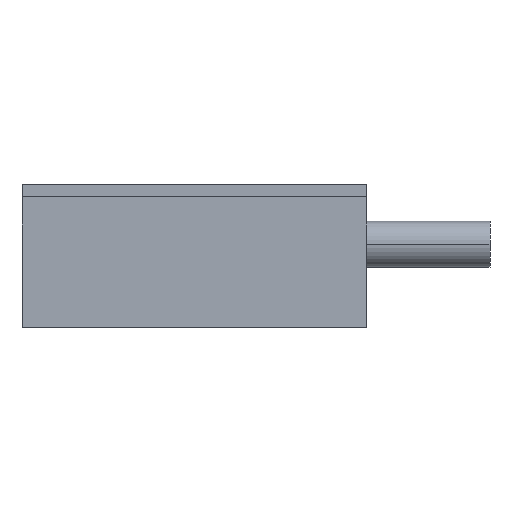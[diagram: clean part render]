
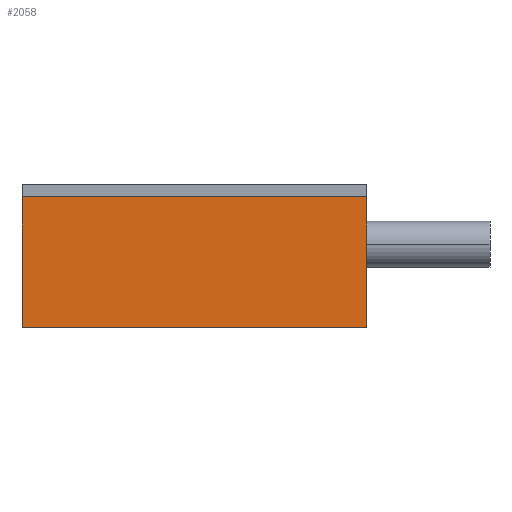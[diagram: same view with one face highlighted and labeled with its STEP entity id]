
A CAD part, front view. The second image highlights one B-rep face of the part: STEP entity #2058.
In plain terms, the highlighted planar face has unit normal (0, -1, 0).
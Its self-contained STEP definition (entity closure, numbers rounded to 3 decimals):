
#18 = CARTESIAN_POINT ( 'NONE',  ( -28., -62.5, 0. ) ) ;
#29 = CARTESIAN_POINT ( 'NONE',  ( 28., -62.5, 21.2 ) ) ;
#102 = EDGE_LOOP ( 'NONE', ( #1921, #378, #565, #911 ) ) ;
#213 = DIRECTION ( 'NONE',  ( 0., 0., -1. ) ) ;
#262 = DIRECTION ( 'NONE',  ( 1., 0., 0. ) ) ;
#281 = EDGE_CURVE ( 'NONE', #1362, #864, #422, .T. ) ;
#373 = DIRECTION ( 'NONE',  ( 1., 0., 0. ) ) ;
#378 = ORIENTED_EDGE ( 'NONE', *, *, #1558, .F. ) ;
#416 = VERTEX_POINT ( 'NONE', #1700 ) ;
#422 = LINE ( 'NONE', #1790, #1690 ) ;
#551 = LINE ( 'NONE', #18, #1649 ) ;
#565 = ORIENTED_EDGE ( 'NONE', *, *, #281, .F. ) ;
#864 = VERTEX_POINT ( 'NONE', #971 ) ;
#911 = ORIENTED_EDGE ( 'NONE', *, *, #1272, .T. ) ;
#941 = CARTESIAN_POINT ( 'NONE',  ( -28., -62.5, 21.2 ) ) ;
#971 = CARTESIAN_POINT ( 'NONE',  ( 28., -62.5, 21.2 ) ) ;
#1009 = CARTESIAN_POINT ( 'NONE',  ( -28., -62.5, 0. ) ) ;
#1272 = EDGE_CURVE ( 'NONE', #1362, #1887, #1480, .T. ) ;
#1292 = EDGE_CURVE ( 'NONE', #1887, #416, #551, .T. ) ;
#1350 = VECTOR ( 'NONE', #213, 1000. ) ;
#1362 = VERTEX_POINT ( 'NONE', #941 ) ;
#1392 = VECTOR ( 'NONE', #2269, 1000. ) ;
#1422 = DIRECTION ( 'NONE',  ( 0., 1., 0. ) ) ;
#1480 = LINE ( 'NONE', #2117, #1392 ) ;
#1558 = EDGE_CURVE ( 'NONE', #864, #416, #2227, .T. ) ;
#1649 = VECTOR ( 'NONE', #373, 1000. ) ;
#1690 = VECTOR ( 'NONE', #262, 1000. ) ;
#1700 = CARTESIAN_POINT ( 'NONE',  ( 28., -62.5, 0. ) ) ;
#1790 = CARTESIAN_POINT ( 'NONE',  ( -28., -62.5, 21.2 ) ) ;
#1887 = VERTEX_POINT ( 'NONE', #1009 ) ;
#1902 = FACE_OUTER_BOUND ( 'NONE', #102, .T. ) ;
#1921 = ORIENTED_EDGE ( 'NONE', *, *, #1292, .T. ) ;
#1929 = AXIS2_PLACEMENT_3D ( 'NONE', #2173, #1422, #2366 ) ;
#2058 = ADVANCED_FACE ( 'NONE', ( #1902 ), #2340, .F. ) ;
#2117 = CARTESIAN_POINT ( 'NONE',  ( -28., -62.5, 21.2 ) ) ;
#2173 = CARTESIAN_POINT ( 'NONE',  ( -28., -62.5, 21.2 ) ) ;
#2227 = LINE ( 'NONE', #29, #1350 ) ;
#2269 = DIRECTION ( 'NONE',  ( 0., 0., -1. ) ) ;
#2340 = PLANE ( 'NONE',  #1929 ) ;
#2366 = DIRECTION ( 'NONE',  ( 0., 0., 1. ) ) ;
